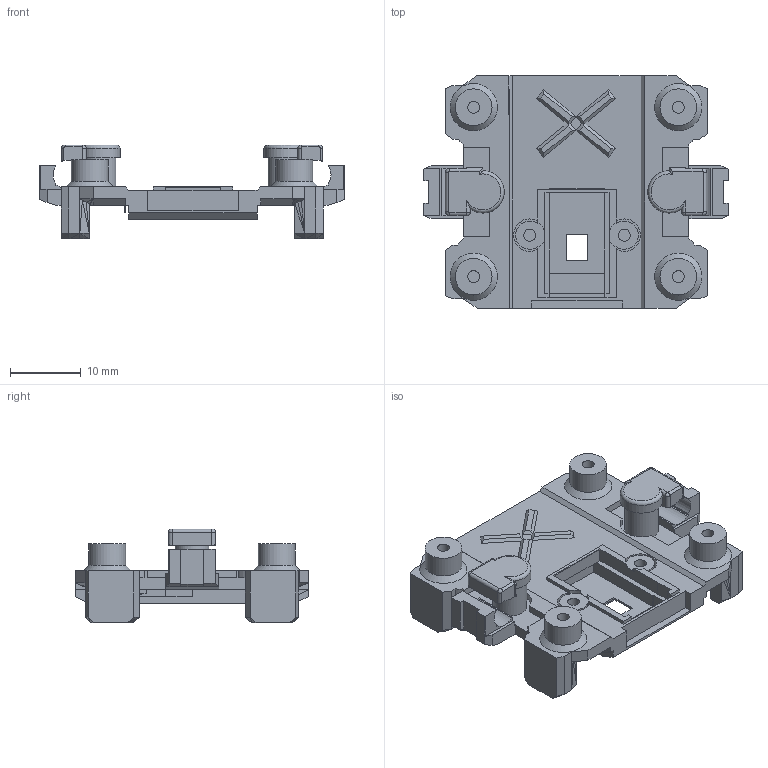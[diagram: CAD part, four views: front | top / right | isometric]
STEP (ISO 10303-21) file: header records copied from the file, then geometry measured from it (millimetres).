
FILE_DESCRIPTION(('Open CASCADE Model'),'2;1');
FILE_NAME('Open CASCADE Shape Model','2026-10-07T23:26:33',('Author'),( 'Open CASCADE'),'Open CASCADE STEP processor 7.9','Open CASCADE 7.9' ,'Unknown');
FILE_SCHEMA(('AUTOMOTIVE_DESIGN { 1 0 10303 214 1 1 1 1 }'));
Products named in the file (1): Open CASCADE STEP translator 7.9 1
Bounding box: 43.15 x 32.95 x 13.28 mm (x, y, z)
Volume: 4483 mm3; surface area: 4757.2 mm2
Topology: 1 solids, 1 shells, 1445 faces, 3331 edges, 1905 vertices
Faces by surface type: plane 1361, cylinder 54, bspline 17, revolution 6, cone 5, torus 2
Full cylindrical faces by diameter (mm): 1.7 x6, 4.8 x2, 5.2 x4
Entity records: 83894 total; most frequent: CARTESIAN_POINT 15572, DIRECTION 12747, LINE 9566, VECTOR 9566, ORIENTED_EDGE 6662, PCURVE 6662, DEFINITIONAL_REPRESENTATION 6662, EDGE_CURVE 3331
